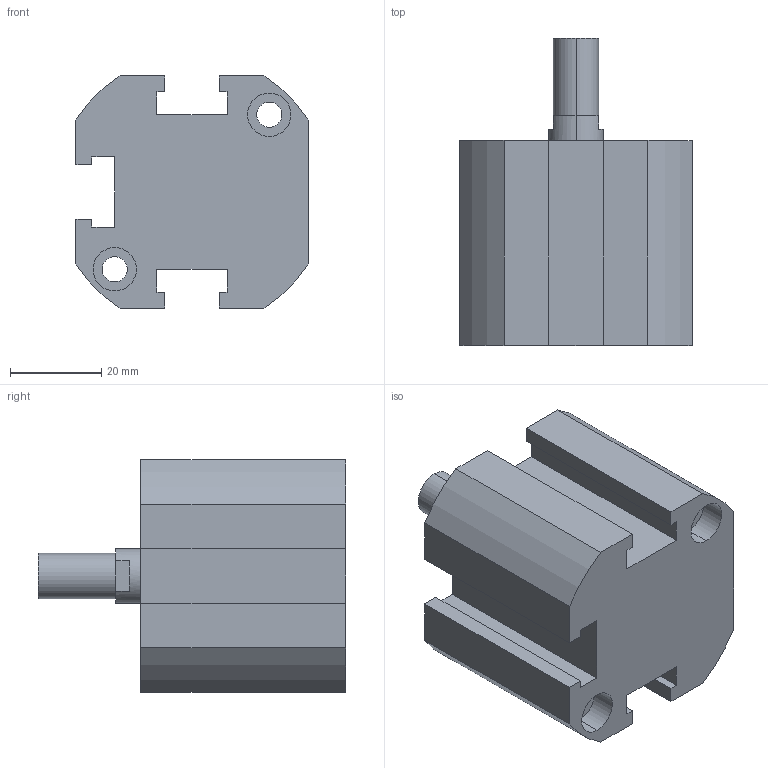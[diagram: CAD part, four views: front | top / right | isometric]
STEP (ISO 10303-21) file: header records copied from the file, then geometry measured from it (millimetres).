
FILE_DESCRIPTION (( 'STEP AP203' ), '1' );
FILE_NAME ('XG#M2-32D-10.STEP', '2016-05-24T02:12:10', ( '' ), ( '' ), 'SwSTEP 2.0', 'SolidWorks 2014', '' );
FILE_SCHEMA (( 'CONFIG_CONTROL_DESIGN' ));
Length unit declared in the file: millimetre
Products named in the file (1): XG#M2-32D-10
Bounding box: 51 x 67.5 x 51 mm (x, y, z)
Volume: 90311.3 mm3; surface area: 19063.2 mm2
Topology: 1 solids, 1 shells, 98 faces, 247 edges, 160 vertices
Faces by surface type: plane 48, cylinder 42, cone 8
Entity records: 3022 total; most frequent: DIRECTION 539, CARTESIAN_POINT 502, ORIENTED_EDGE 486, EDGE_CURVE 243, AXIS2_PLACEMENT_3D 197, VERTEX_POINT 160, VECTOR 145, LINE 145
